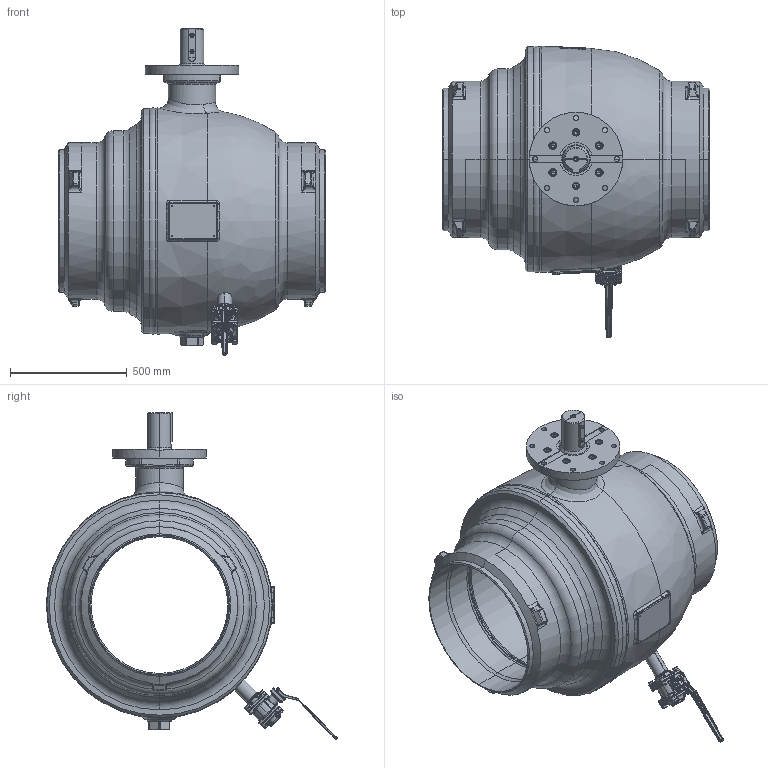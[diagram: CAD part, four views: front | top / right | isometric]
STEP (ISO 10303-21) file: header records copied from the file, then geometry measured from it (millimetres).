
FILE_DESCRIPTION((''),'2;1');
FILE_NAME('KHSVI_600_FR_WE_ENTL','2026-01-27T14:25:52',('schwaba'),('KLINGER'),'CREO PARAMETRIC BY PTC INC, 2023014','CREO PARAMETRIC BY PTC INC, 2023014','');
FILE_SCHEMA(('CONFIG_CONTROL_DESIGN'));
Length unit declared in the file: millimetre
Products named in the file (1): KHSVI_600_FR_WE_ENTL
Bounding box: 1143 x 1245.7 x 1396.54 mm (x, y, z)
Volume: 200809229.8 mm3; surface area: 12684944.4 mm2
Topology: 1 solids, 5 shells, 3635 faces, 8894 edges, 5366 vertices
Faces by surface type: plane 1224, cylinder 941, bspline 465, torus 465, cone 403, sphere 98, revolution 31, extrusion 8
Entity records: 231655 total; most frequent: CARTESIAN_POINT 150794, ORIENTED_EDGE 17698, DIRECTION 16034, EDGE_CURVE 8849, AXIS2_PLACEMENT_3D 6639, VERTEX_POINT 5366, EDGE_LOOP 3877, FACE_OUTER_BOUND 3635
